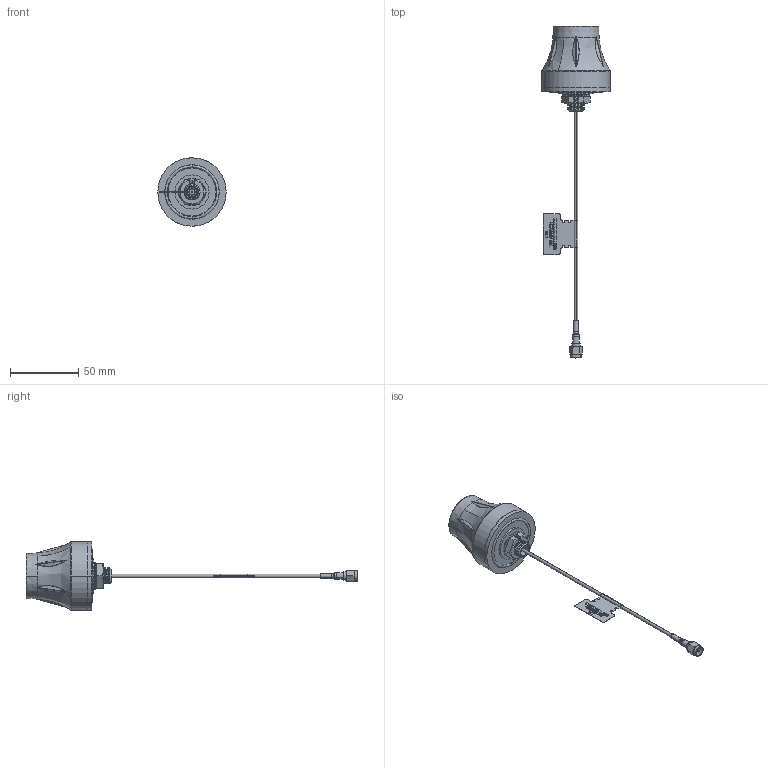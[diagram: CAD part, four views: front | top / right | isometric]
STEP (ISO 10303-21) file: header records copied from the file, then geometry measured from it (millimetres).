
FILE_DESCRIPTION (( 'STEP AP214' ), '1' );
FILE_NAME ('G30.B.305111.STEP', '2020-02-21T03:06:45', ( '' ), ( '' ), 'SwSTEP 2.0', 'SolidWorks 2017', '' );
FILE_SCHEMA (( 'AUTOMOTIVE_DESIGN' ));
Length unit declared in the file: millimetre
Products named in the file (9): 000417C010000A_G30C_Nut_Ver01; 000417C020000A_G30C_Gasket_Ver01; G30.B.305111; G30-TOP.prt; CFD200 Cable; 000417C000000A_G30C_Multi_Tooth_Washer_Ver02; SMA(M)ST; G30 Label; 000717C000000A_G30C_O-Ring_Ver01
Assembly tree (8 placements, depth 2):
  G30.B.305111
    G30-TOP.prt
    000417C000000A_G30C_Multi_Tooth_Washer_Ver02
    000417C010000A_G30C_Nut_Ver01
    000417C020000A_G30C_Gasket_Ver01
    000717C000000A_G30C_O-Ring_Ver01
    CFD200 Cable
    SMA(M)ST
    G30 Label
Bounding box: 50.09 x 243.21 x 50.09 mm (x, y, z)
Volume: 71940.5 mm3; surface area: 19408.4 mm2
Topology: 10 solids, 10 shells, 855 faces, 2207 edges, 1420 vertices
Faces by surface type: plane 375, bspline 302, cylinder 88, cone 88, torus 2
Entity records: 39943 total; most frequent: CARTESIAN_POINT 17496, ORIENTED_EDGE 4414, DIRECTION 2969, EDGE_CURVE 2207, VERTEX_POINT 1420, LINE 1189, VECTOR 1189, EDGE_LOOP 909
